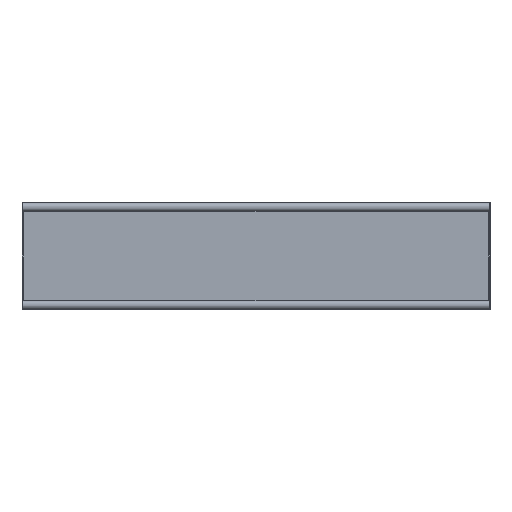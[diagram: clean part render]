
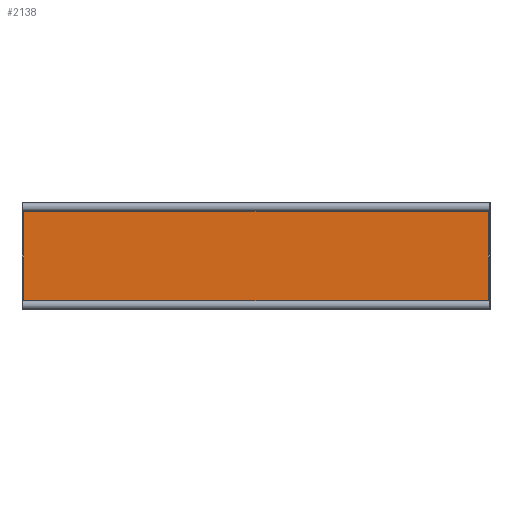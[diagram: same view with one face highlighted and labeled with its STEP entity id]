
A CAD part, front view. The second image highlights one B-rep face of the part: STEP entity #2138.
In plain terms, the highlighted planar face has unit normal (0, -1, 0).
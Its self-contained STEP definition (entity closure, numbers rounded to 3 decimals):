
#60 = EDGE_CURVE ( 'NONE', #7491, #9919, #68, .T. ) ;
#68 = LINE ( 'NONE', #1625, #7622 ) ;
#96 = CARTESIAN_POINT ( 'NONE',  ( -549., -2., -124. ) ) ;
#401 = CARTESIAN_POINT ( 'NONE',  ( 549., -2., -124. ) ) ;
#407 = PLANE ( 'NONE',  #6848 ) ;
#467 = DIRECTION ( 'NONE',  ( 0., 0., 1. ) ) ;
#631 = VERTEX_POINT ( 'NONE', #7954 ) ;
#676 = EDGE_CURVE ( 'NONE', #9188, #2451, #2376, .T. ) ;
#874 = DIRECTION ( 'NONE',  ( 0., 0., 1. ) ) ;
#1080 = CIRCLE ( 'NONE', #2185, 5. ) ;
#1248 = AXIS2_PLACEMENT_3D ( 'NONE', #2014, #2665, #7273 ) ;
#1340 = EDGE_CURVE ( 'NONE', #631, #2599, #7697, .T. ) ;
#1625 = CARTESIAN_POINT ( 'NONE',  ( -549., -2., -121. ) ) ;
#1707 = LINE ( 'NONE', #4013, #6505 ) ;
#1935 = ORIENTED_EDGE ( 'NONE', *, *, #2064, .F. ) ;
#1962 = EDGE_LOOP ( 'NONE', ( #6538, #8874, #5930, #7360, #8809, #1935, #8200, #7523 ) ) ;
#2014 = CARTESIAN_POINT ( 'NONE',  ( 549., -2., 124. ) ) ;
#2064 = EDGE_CURVE ( 'NONE', #9086, #4866, #1707, .T. ) ;
#2138 = ADVANCED_FACE ( 'NONE', ( #7305 ), #407, .F. ) ;
#2185 = AXIS2_PLACEMENT_3D ( 'NONE', #7936, #5872, #8910 ) ;
#2284 = VECTOR ( 'NONE', #6796, 1000. ) ;
#2376 = LINE ( 'NONE', #5491, #2284 ) ;
#2390 = CARTESIAN_POINT ( 'NONE',  ( 545., -2., -121. ) ) ;
#2439 = DIRECTION ( 'NONE',  ( 0., 0., 1. ) ) ;
#2451 = VERTEX_POINT ( 'NONE', #2565 ) ;
#2565 = CARTESIAN_POINT ( 'NONE',  ( 546., -2., 120. ) ) ;
#2599 = VERTEX_POINT ( 'NONE', #8952 ) ;
#2665 = DIRECTION ( 'NONE',  ( 0., -1., 0. ) ) ;
#3340 = CARTESIAN_POINT ( 'NONE',  ( -549., -2., 121. ) ) ;
#3404 = CARTESIAN_POINT ( 'NONE',  ( 546., -2., -120. ) ) ;
#3464 = CIRCLE ( 'NONE', #5580, 5. ) ;
#3489 = AXIS2_PLACEMENT_3D ( 'NONE', #96, #7752, #874 ) ;
#3563 = CARTESIAN_POINT ( 'NONE',  ( -549., -2., -124. ) ) ;
#4013 = CARTESIAN_POINT ( 'NONE',  ( -546., -2., -124. ) ) ;
#4479 = CARTESIAN_POINT ( 'NONE',  ( -545., -2., -121. ) ) ;
#4628 = CARTESIAN_POINT ( 'NONE',  ( -546., -2., 120. ) ) ;
#4686 = EDGE_CURVE ( 'NONE', #9188, #9919, #3464, .T. ) ;
#4866 = VERTEX_POINT ( 'NONE', #4628 ) ;
#5491 = CARTESIAN_POINT ( 'NONE',  ( 546., -2., -124. ) ) ;
#5580 = AXIS2_PLACEMENT_3D ( 'NONE', #401, #5797, #6694 ) ;
#5690 = DIRECTION ( 'NONE',  ( 0., 1., 0. ) ) ;
#5797 = DIRECTION ( 'NONE',  ( 0., -1., 0. ) ) ;
#5872 = DIRECTION ( 'NONE',  ( 0., -1., 0. ) ) ;
#5930 = ORIENTED_EDGE ( 'NONE', *, *, #8860, .F. ) ;
#6419 = DIRECTION ( 'NONE',  ( 1., 0., 0. ) ) ;
#6505 = VECTOR ( 'NONE', #2439, 1000. ) ;
#6538 = ORIENTED_EDGE ( 'NONE', *, *, #4686, .F. ) ;
#6694 = DIRECTION ( 'NONE',  ( 0., 0., 1. ) ) ;
#6796 = DIRECTION ( 'NONE',  ( 0., 0., 1. ) ) ;
#6848 = AXIS2_PLACEMENT_3D ( 'NONE', #3563, #5690, #467 ) ;
#7273 = DIRECTION ( 'NONE',  ( 0., 0., 1. ) ) ;
#7304 = VECTOR ( 'NONE', #6419, 1000. ) ;
#7305 = FACE_OUTER_BOUND ( 'NONE', #1962, .T. ) ;
#7360 = ORIENTED_EDGE ( 'NONE', *, *, #1340, .F. ) ;
#7491 = VERTEX_POINT ( 'NONE', #4479 ) ;
#7523 = ORIENTED_EDGE ( 'NONE', *, *, #60, .T. ) ;
#7622 = VECTOR ( 'NONE', #8424, 1000. ) ;
#7697 = LINE ( 'NONE', #3340, #7304 ) ;
#7752 = DIRECTION ( 'NONE',  ( 0., -1., 0. ) ) ;
#7936 = CARTESIAN_POINT ( 'NONE',  ( -549., -2., 124. ) ) ;
#7954 = CARTESIAN_POINT ( 'NONE',  ( -545., -2., 121. ) ) ;
#8200 = ORIENTED_EDGE ( 'NONE', *, *, #9039, .F. ) ;
#8424 = DIRECTION ( 'NONE',  ( 1., 0., 0. ) ) ;
#8581 = EDGE_CURVE ( 'NONE', #4866, #631, #1080, .T. ) ;
#8684 = CARTESIAN_POINT ( 'NONE',  ( -546., -2., -120. ) ) ;
#8809 = ORIENTED_EDGE ( 'NONE', *, *, #8581, .F. ) ;
#8860 = EDGE_CURVE ( 'NONE', #2599, #2451, #9899, .T. ) ;
#8874 = ORIENTED_EDGE ( 'NONE', *, *, #676, .T. ) ;
#8910 = DIRECTION ( 'NONE',  ( 0., 0., 1. ) ) ;
#8952 = CARTESIAN_POINT ( 'NONE',  ( 545., -2., 121. ) ) ;
#9039 = EDGE_CURVE ( 'NONE', #7491, #9086, #9417, .T. ) ;
#9086 = VERTEX_POINT ( 'NONE', #8684 ) ;
#9188 = VERTEX_POINT ( 'NONE', #3404 ) ;
#9417 = CIRCLE ( 'NONE', #3489, 5. ) ;
#9899 = CIRCLE ( 'NONE', #1248, 5. ) ;
#9919 = VERTEX_POINT ( 'NONE', #2390 ) ;
